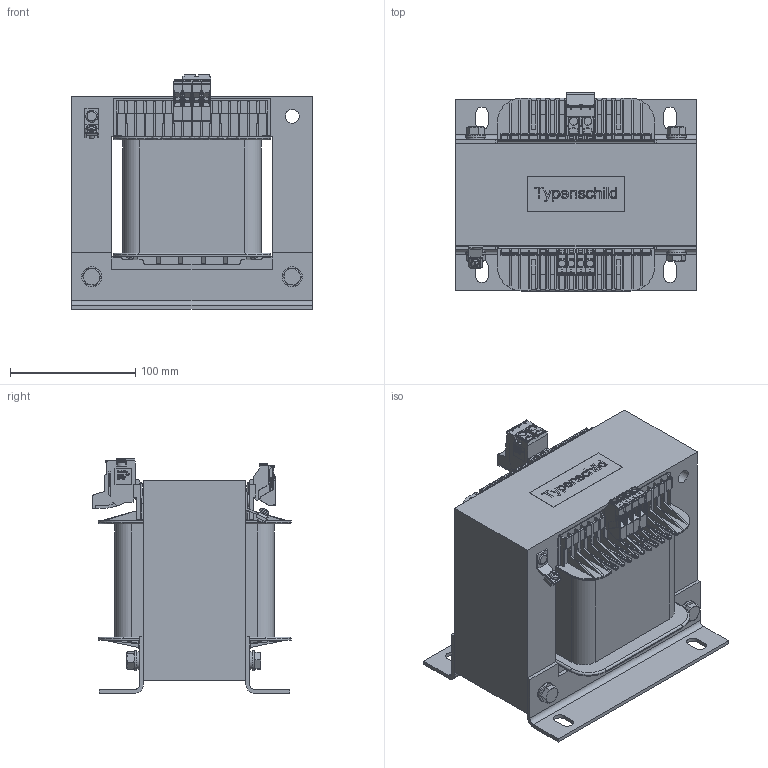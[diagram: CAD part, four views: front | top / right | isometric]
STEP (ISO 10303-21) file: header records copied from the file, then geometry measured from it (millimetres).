
FILE_DESCRIPTION(/* description */ (''),/* implementation_level */ '2;1');
FILE_NAME(/* name */ 'STZ2,0 100-950V_42V.stp',/* time_stamp */ '2023-09-05T11:26:36+02:00',/* author */ ('EnneJ'),/* organization */ (''),/* preprocessor_version */ 'ST-DEVELOPER v19.2',/* originating_system */ 'Autodesk Inventor 2023',/* authorisation */ '');
FILE_SCHEMA (('AUTOMOTIVE_DESIGN { 1 0 10303 214 3 1 1 }'));
Products named in the file (17): X0001 STZ 001; Erdung 45°; Bauteil2; erd 90 001; M4-8; DIN7337 A4,8x16; Bauteil28; 1; Norm (DIN); 1222_TKS_4_1; 17033_TKS_10_2; EI 192 laut Z851B01A; DIN 125 - A 8,4; Arzner Gr 8; ISO 4014 - M8 x 100; ISO 4032 - M8; Leistungsschild 78x28
Assembly tree (28 placements, depth 3):
  X0001 STZ 001
    Erdung 45°
      Bauteil2
      erd 90 001
      M4-8
    DIN7337 A4,8x16
    Bauteil28
    1
    Norm (DIN)
    1222_TKS_4_1  x4
    17033_TKS_10_2
    EI 192 laut Z851B01A  x2
    Arzner Gr 8  x4
    DIN 125 - A 8,4  x4
    ISO 4014 - M8 x 100  x2
    ISO 4032 - M8  x2
    Leistungsschild 78x28
Bounding box: 192 x 158.1 x 187.2 mm (x, y, z)
Volume: 2966960.3 mm3; surface area: 486068.1 mm2
Topology: 27 solids, 27 shells, 8620 faces, 24113 edges, 15732 vertices
Faces by surface type: plane 7109, cylinder 973, bspline 305, torus 174, cone 34, sphere 25
Full cylindrical faces by diameter (mm): 3.242 x1, 3.621 x1, 4 x2, 4.5 x1, 4.8 x1, 5 x1, 6.647 x2, 8 x2, 8.1 x4, 8.4 x4, 9.5 x1, 9.8 x4, 11 x4, 11.63 x2, 14 x4, 16 x4
Entity records: 149121 total; most frequent: CARTESIAN_POINT 32342, ORIENTED_EDGE 25212, DIRECTION 22544, EDGE_CURVE 12606, LINE 10800, VECTOR 10800, VERTEX_POINT 8196, AXIS2_PLACEMENT_3D 5872
